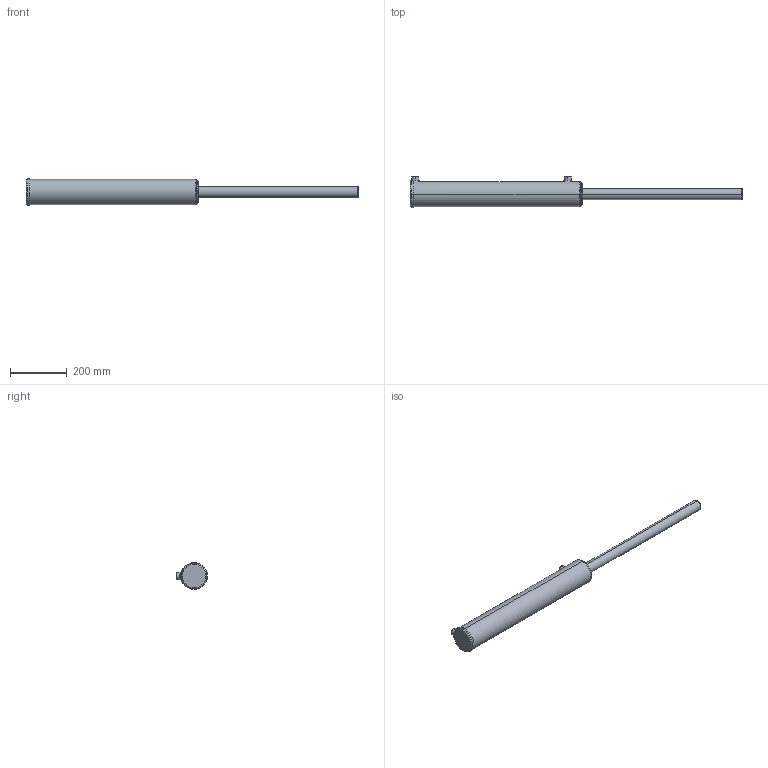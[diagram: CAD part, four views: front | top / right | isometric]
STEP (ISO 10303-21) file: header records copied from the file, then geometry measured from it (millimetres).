
FILE_DESCRIPTION (( 'STEP AP203' ), '1' );
FILE_NAME ('BL300150x508 (20) extended.STEP', '2014-11-23T22:58:29', ( '' ), ( '' ), 'SwSTEP 2.0', 'SolidWorks 2014', '' );
FILE_SCHEMA (( 'CONFIG_CONTROL_DESIGN' ));
Length unit declared in the file: millimetre
Products named in the file (3): BL body 3_3x20; Spare_3x20; BL300150x508 (20) extended
Assembly tree (2 placements, depth 2):
  BL300150x508 (20) extended
    BL body 3_3x20
    Spare_3x20
Bounding box: 1174 x 109.9 x 94.9 mm (x, y, z)
Volume: 4240577.1 mm3; surface area: 298492 mm2
Topology: 2 solids, 2 shells, 88 faces, 205 edges, 126 vertices
Faces by surface type: cylinder 32, plane 20, torus 17, bspline 11, cone 8
Entity records: 5992 total; most frequent: CARTESIAN_POINT 3745, DIRECTION 420, ORIENTED_EDGE 402, EDGE_CURVE 201, AXIS2_PLACEMENT_3D 181, VERTEX_POINT 126, EDGE_LOOP 101, CIRCLE 99
